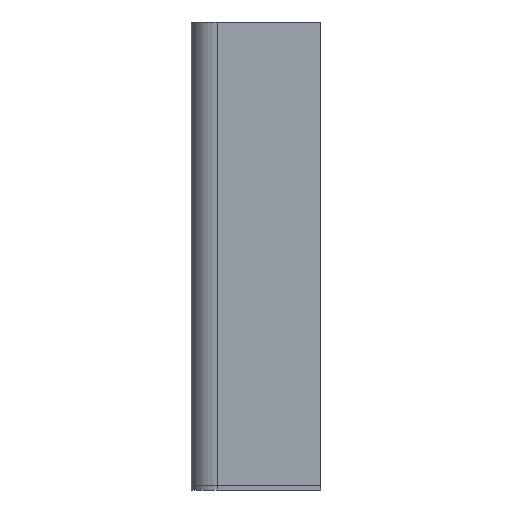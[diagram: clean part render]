
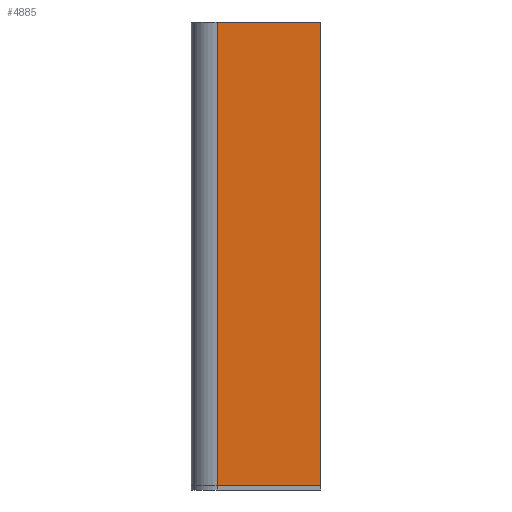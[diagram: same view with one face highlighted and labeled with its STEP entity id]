
A CAD part, left-side view. The second image highlights one B-rep face of the part: STEP entity #4885.
In plain terms, the highlighted planar face has unit normal (-1, 0, 0).
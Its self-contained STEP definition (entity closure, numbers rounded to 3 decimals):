
#51 = CARTESIAN_POINT ( 'NONE',  ( -7.5, 5.25, 62.7 ) ) ;
#66 = DIRECTION ( 'NONE',  ( 0., 0., -1. ) ) ;
#198 = VECTOR ( 'NONE', #4774, 1000. ) ;
#239 = VERTEX_POINT ( 'NONE', #3148 ) ;
#358 = VERTEX_POINT ( 'NONE', #4621 ) ;
#903 = EDGE_CURVE ( 'NONE', #358, #239, #1481, .T. ) ;
#966 = ORIENTED_EDGE ( 'NONE', *, *, #2594, .F. ) ;
#1069 = PLANE ( 'NONE',  #2846 ) ;
#1314 = EDGE_LOOP ( 'NONE', ( #5186, #966, #2890, #5134 ) ) ;
#1350 = DIRECTION ( 'NONE',  ( 0., 0., -1. ) ) ;
#1481 = LINE ( 'NONE', #3561, #5144 ) ;
#1569 = CARTESIAN_POINT ( 'NONE',  ( -7.5, -8.75, 62.7 ) ) ;
#2508 = VERTEX_POINT ( 'NONE', #3261 ) ;
#2594 = EDGE_CURVE ( 'NONE', #3365, #239, #4961, .T. ) ;
#2846 = AXIS2_PLACEMENT_3D ( 'NONE', #3945, #2858, #4490 ) ;
#2858 = DIRECTION ( 'NONE',  ( 1., 0., 0. ) ) ;
#2890 = ORIENTED_EDGE ( 'NONE', *, *, #3245, .F. ) ;
#3116 = FACE_OUTER_BOUND ( 'NONE', #1314, .T. ) ;
#3148 = CARTESIAN_POINT ( 'NONE',  ( -7.5, -8.75, 0. ) ) ;
#3189 = CARTESIAN_POINT ( 'NONE',  ( -7.5, -8.75, 62.7 ) ) ;
#3217 = VECTOR ( 'NONE', #66, 1000. ) ;
#3245 = EDGE_CURVE ( 'NONE', #2508, #3365, #4312, .T. ) ;
#3261 = CARTESIAN_POINT ( 'NONE',  ( -7.5, 5.25, 62.7 ) ) ;
#3365 = VERTEX_POINT ( 'NONE', #1569 ) ;
#3561 = CARTESIAN_POINT ( 'NONE',  ( -7.5, -8.75, 0. ) ) ;
#3812 = CARTESIAN_POINT ( 'NONE',  ( -7.5, -8.75, 62.7 ) ) ;
#3945 = CARTESIAN_POINT ( 'NONE',  ( -7.5, -8.75, 62.7 ) ) ;
#4285 = EDGE_CURVE ( 'NONE', #2508, #358, #4690, .T. ) ;
#4312 = LINE ( 'NONE', #3189, #198 ) ;
#4490 = DIRECTION ( 'NONE',  ( 0., 1., 0. ) ) ;
#4621 = CARTESIAN_POINT ( 'NONE',  ( -7.5, 5.25, 0. ) ) ;
#4641 = DIRECTION ( 'NONE',  ( 0., -1., 0. ) ) ;
#4690 = LINE ( 'NONE', #51, #5228 ) ;
#4774 = DIRECTION ( 'NONE',  ( 0., -1., 0. ) ) ;
#4885 = ADVANCED_FACE ( 'NONE', ( #3116 ), #1069, .F. ) ;
#4961 = LINE ( 'NONE', #3812, #3217 ) ;
#5134 = ORIENTED_EDGE ( 'NONE', *, *, #4285, .T. ) ;
#5144 = VECTOR ( 'NONE', #4641, 1000. ) ;
#5186 = ORIENTED_EDGE ( 'NONE', *, *, #903, .T. ) ;
#5228 = VECTOR ( 'NONE', #1350, 1000. ) ;
